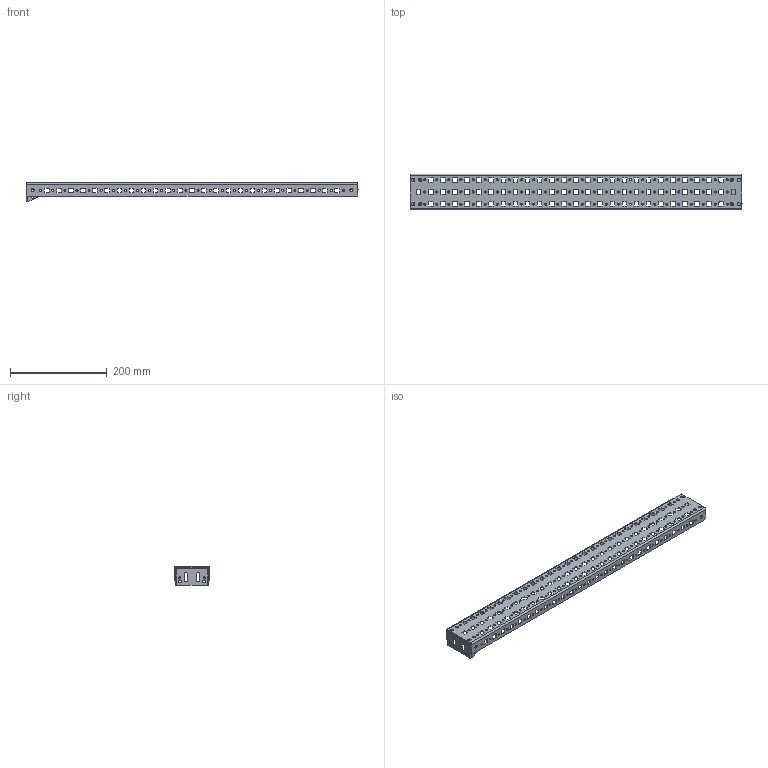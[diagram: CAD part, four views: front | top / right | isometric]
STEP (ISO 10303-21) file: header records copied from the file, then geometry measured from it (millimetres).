
FILE_DESCRIPTION(('STEP AP203'), '1');
FILE_NAME('MG 80.09 L Ðåéêà ìîíòàæíàÿ v2', '2021-05-20T07:47:33', ('UNSPECIFIED'), ('UNSPECIFIED'), 'ASCON STEP Converter 1.3', 'ASCON Math Kernel', '');
FILE_SCHEMA(('CONFIG_CONTROL_DESIGN'));
Length unit declared in the file: millimetre
Products named in the file (3): MG 80.09 L 01.001 Ðåéêà ìîíòàæíàÿ v2; MG 09 L 01.002 Êðîíøòåéí ðåéêè ìîíòàæíîé v2
Assembly tree (3 placements, depth 2):
  (unnamed)
    MG 80.09 L 01.001 Ðåéêà ìîíòàæíàÿ v2
    MG 09 L 01.002 Êðîíøòåéí ðåéêè ìîíòàæíîé v2  x2
Bounding box: 685.55 x 74.15 x 39 mm (x, y, z)
Volume: 159433.2 mm3; surface area: 178660.5 mm2
Topology: 3 solids, 3 shells, 1320 faces, 3862 edges, 2548 vertices
Faces by surface type: cylinder 714, plane 598, bspline 8
Full cylindrical faces by diameter (mm): 4.2 x154, 6 x4, 6.5 x12
Entity records: 53616 total; most frequent: CARTESIAN_POINT 8180, DIRECTION 7394, ORIENTED_EDGE 7080, EDGE_CURVE 3540, AXIS2_PLACEMENT_3D 2612, VERTEX_POINT 2448, LINE 2170, VECTOR 2170
